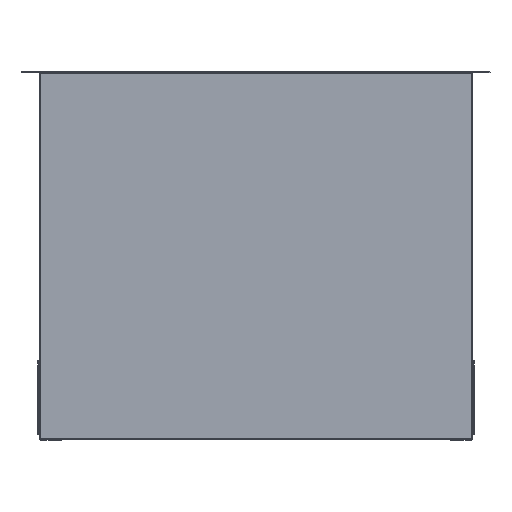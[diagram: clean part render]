
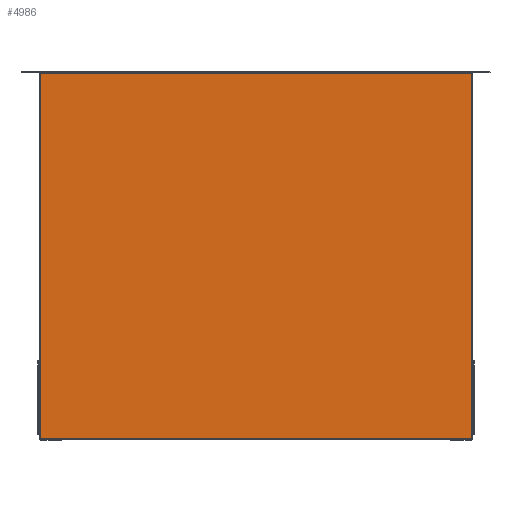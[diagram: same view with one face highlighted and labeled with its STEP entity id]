
A CAD part, front view. The second image highlights one B-rep face of the part: STEP entity #4986.
In plain terms, the highlighted planar face has unit normal (0, -1, -0.013) as drawn and (0, 0, -1) by its records, which use the part's own axes.
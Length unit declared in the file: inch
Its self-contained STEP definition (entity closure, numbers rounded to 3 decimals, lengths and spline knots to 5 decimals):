
#42 = ORIENTED_EDGE ( 'NONE', *, *, #14262, .T. ) ;
#568 = DIRECTION ( 'NONE',  ( 0., -1., 0. ) ) ;
#797 = DIRECTION ( 'NONE',  ( -1., 0., 0. ) ) ;
#1095 = VERTEX_POINT ( 'NONE', #20571 ) ;
#1994 = CARTESIAN_POINT ( 'NONE',  ( 41.66418, 35.37091, -0.038 ) ) ;
#2073 = ORIENTED_EDGE ( 'NONE', *, *, #10885, .T. ) ;
#2102 = LINE ( 'NONE', #3580, #13863 ) ;
#2116 = EDGE_LOOP ( 'NONE', ( #3471, #42, #25168, #22165, #28436, #24863, #19853, #12657, #26142, #2073, #17959, #5690, #9823, #27240, #17568, #15148 ) ) ;
#2342 = CARTESIAN_POINT ( 'NONE',  ( 41.66483, 0., -0.038 ) ) ;
#2512 = DIRECTION ( 'NONE',  ( -1., 0., 0. ) ) ;
#2691 = VERTEX_POINT ( 'NONE', #11696 ) ;
#3238 = CARTESIAN_POINT ( 'NONE',  ( 0., 35.37091, -0.038 ) ) ;
#3386 = EDGE_CURVE ( 'NONE', #28483, #27165, #27509, .T. ) ;
#3471 = ORIENTED_EDGE ( 'NONE', *, *, #20918, .F. ) ;
#3580 = CARTESIAN_POINT ( 'NONE',  ( 12.92088, 1.40921, -0.038 ) ) ;
#4073 = DIRECTION ( 'NONE',  ( 0., 0., -1. ) ) ;
#4098 = VECTOR ( 'NONE', #20821, 39.37008 ) ;
#4540 = CARTESIAN_POINT ( 'NONE',  ( 12.97088, 1.45921, -0.038 ) ) ;
#4634 = CARTESIAN_POINT ( 'NONE',  ( 0., 1.45856, -0.038 ) ) ;
#4986 = ADVANCED_FACE ( 'NONE', ( #18772 ), #8395, .T. ) ;
#5031 = CARTESIAN_POINT ( 'NONE',  ( 12.87088, 1.45921, -0.038 ) ) ;
#5054 = DIRECTION ( 'NONE',  ( 1., 0., 0. ) ) ;
#5690 = ORIENTED_EDGE ( 'NONE', *, *, #13666, .T. ) ;
#5764 = LINE ( 'NONE', #23245, #16761 ) ;
#6099 = VECTOR ( 'NONE', #24488, 39.37008 ) ;
#6322 = VERTEX_POINT ( 'NONE', #19503 ) ;
#6548 = LINE ( 'NONE', #15679, #16850 ) ;
#6859 = VECTOR ( 'NONE', #568, 39.37008 ) ;
#6863 = EDGE_CURVE ( 'NONE', #27633, #9284, #11944, .T. ) ;
#7395 = CARTESIAN_POINT ( 'NONE',  ( 41.66418, 1.42796, -0.038 ) ) ;
#7613 = LINE ( 'NONE', #7395, #25861 ) ;
#7667 = VECTOR ( 'NONE', #5054, 39.37008 ) ;
#7965 = LINE ( 'NONE', #28415, #13143 ) ;
#8000 = CARTESIAN_POINT ( 'NONE',  ( 12.87088, 35.47026, -0.038 ) ) ;
#8084 = VECTOR ( 'NONE', #10350, 39.37008 ) ;
#8144 = EDGE_CURVE ( 'NONE', #28483, #14903, #10809, .T. ) ;
#8395 = PLANE ( 'NONE',  #9129 ) ;
#8434 = VERTEX_POINT ( 'NONE', #12731 ) ;
#9104 = VERTEX_POINT ( 'NONE', #9320 ) ;
#9118 = CARTESIAN_POINT ( 'NONE',  ( 12.87088, 35.37026, -0.038 ) ) ;
#9129 = AXIS2_PLACEMENT_3D ( 'NONE', #26026, #4073, #19436 ) ;
#9284 = VERTEX_POINT ( 'NONE', #12020 ) ;
#9320 = CARTESIAN_POINT ( 'NONE',  ( 41.66483, 1.49084, -0.038 ) ) ;
#9532 = DIRECTION ( 'NONE',  ( 1., 0., 0. ) ) ;
#9823 = ORIENTED_EDGE ( 'NONE', *, *, #6863, .F. ) ;
#10261 = EDGE_CURVE ( 'NONE', #22614, #1095, #7965, .T. ) ;
#10350 = DIRECTION ( 'NONE',  ( 0., -1., 0. ) ) ;
#10608 = CARTESIAN_POINT ( 'NONE',  ( 12.87088, 35.42026, -0.038 ) ) ;
#10650 = LINE ( 'NONE', #24939, #23053 ) ;
#10797 = VERTEX_POINT ( 'NONE', #21899 ) ;
#10809 = LINE ( 'NONE', #16214, #16667 ) ;
#10885 = EDGE_CURVE ( 'NONE', #8434, #16534, #6548, .T. ) ;
#10907 = CARTESIAN_POINT ( 'NONE',  ( 41.66483, 35.33943, -0.038 ) ) ;
#11278 = CARTESIAN_POINT ( 'NONE',  ( 0., 35.33943, -0.038 ) ) ;
#11696 = CARTESIAN_POINT ( 'NONE',  ( 12.97088, 1.45856, -0.038 ) ) ;
#11944 = LINE ( 'NONE', #11278, #18448 ) ;
#12020 = CARTESIAN_POINT ( 'NONE',  ( 41.66418, 35.33943, -0.038 ) ) ;
#12125 = LINE ( 'NONE', #4634, #17234 ) ;
#12350 = VECTOR ( 'NONE', #12538, 39.37008 ) ;
#12538 = DIRECTION ( 'NONE',  ( 0., -1., 0. ) ) ;
#12657 = ORIENTED_EDGE ( 'NONE', *, *, #3386, .T. ) ;
#12731 = CARTESIAN_POINT ( 'NONE',  ( 12.97088, 35.37026, -0.038 ) ) ;
#13110 = EDGE_CURVE ( 'NONE', #15478, #16534, #15826, .T. ) ;
#13143 = VECTOR ( 'NONE', #26296, 39.37008 ) ;
#13666 = EDGE_CURVE ( 'NONE', #15478, #9284, #25427, .T. ) ;
#13863 = VECTOR ( 'NONE', #18950, 39.37008 ) ;
#13968 = LINE ( 'NONE', #27889, #8084 ) ;
#14262 = EDGE_CURVE ( 'NONE', #2691, #22614, #5764, .T. ) ;
#14903 = VERTEX_POINT ( 'NONE', #15429 ) ;
#15091 = CARTESIAN_POINT ( 'NONE',  ( 12.84276, 1.40921, -0.038 ) ) ;
#15148 = ORIENTED_EDGE ( 'NONE', *, *, #19291, .T. ) ;
#15336 = CARTESIAN_POINT ( 'NONE',  ( 12.97088, 35.37091, -0.038 ) ) ;
#15429 = CARTESIAN_POINT ( 'NONE',  ( 12.84276, 35.42026, -0.038 ) ) ;
#15478 = VERTEX_POINT ( 'NONE', #1994 ) ;
#15679 = CARTESIAN_POINT ( 'NONE',  ( 12.97088, 35.47026, -0.038 ) ) ;
#15790 = VECTOR ( 'NONE', #19027, 39.37008 ) ;
#15826 = LINE ( 'NONE', #3238, #4098 ) ;
#15880 = EDGE_CURVE ( 'NONE', #14903, #21249, #13968, .T. ) ;
#16214 = CARTESIAN_POINT ( 'NONE',  ( 12.79588, 35.42026, -0.038 ) ) ;
#16534 = VERTEX_POINT ( 'NONE', #15336 ) ;
#16667 = VECTOR ( 'NONE', #797, 39.37008 ) ;
#16761 = VECTOR ( 'NONE', #21035, 39.37008 ) ;
#16850 = VECTOR ( 'NONE', #17866, 39.37008 ) ;
#17234 = VECTOR ( 'NONE', #22218, 39.37008 ) ;
#17568 = ORIENTED_EDGE ( 'NONE', *, *, #20375, .F. ) ;
#17866 = DIRECTION ( 'NONE',  ( 0., 1., 0. ) ) ;
#17959 = ORIENTED_EDGE ( 'NONE', *, *, #13110, .F. ) ;
#18071 = VERTEX_POINT ( 'NONE', #26890 ) ;
#18209 = CARTESIAN_POINT ( 'NONE',  ( 0., 1.49084, -0.038 ) ) ;
#18448 = VECTOR ( 'NONE', #2512, 39.37008 ) ;
#18772 = FACE_OUTER_BOUND ( 'NONE', #2116, .T. ) ;
#18950 = DIRECTION ( 'NONE',  ( 1., 0., 0. ) ) ;
#19027 = DIRECTION ( 'NONE',  ( 0., -1., 0. ) ) ;
#19291 = EDGE_CURVE ( 'NONE', #10797, #6322, #7613, .T. ) ;
#19436 = DIRECTION ( 'NONE',  ( -1., 0., 0. ) ) ;
#19503 = CARTESIAN_POINT ( 'NONE',  ( 41.66418, 1.45856, -0.038 ) ) ;
#19853 = ORIENTED_EDGE ( 'NONE', *, *, #8144, .F. ) ;
#20375 = EDGE_CURVE ( 'NONE', #10797, #9104, #25232, .T. ) ;
#20534 = DIRECTION ( 'NONE',  ( 0., -1., 0. ) ) ;
#20571 = CARTESIAN_POINT ( 'NONE',  ( 12.87088, 1.45921, -0.038 ) ) ;
#20613 = EDGE_CURVE ( 'NONE', #21249, #18071, #2102, .T. ) ;
#20821 = DIRECTION ( 'NONE',  ( -1., 0., 0. ) ) ;
#20918 = EDGE_CURVE ( 'NONE', #2691, #6322, #12125, .T. ) ;
#21035 = DIRECTION ( 'NONE',  ( 0., 1., 0. ) ) ;
#21249 = VERTEX_POINT ( 'NONE', #15091 ) ;
#21899 = CARTESIAN_POINT ( 'NONE',  ( 41.66418, 1.49084, -0.038 ) ) ;
#22165 = ORIENTED_EDGE ( 'NONE', *, *, #26722, .T. ) ;
#22218 = DIRECTION ( 'NONE',  ( 1., 0., 0. ) ) ;
#22614 = VERTEX_POINT ( 'NONE', #4540 ) ;
#22762 = EDGE_CURVE ( 'NONE', #27165, #8434, #10650, .T. ) ;
#22957 = LINE ( 'NONE', #2342, #6099 ) ;
#23053 = VECTOR ( 'NONE', #9532, 39.37008 ) ;
#23245 = CARTESIAN_POINT ( 'NONE',  ( 12.97088, 1.45921, -0.038 ) ) ;
#24399 = LINE ( 'NONE', #5031, #6859 ) ;
#24488 = DIRECTION ( 'NONE',  ( 0., -1., 0. ) ) ;
#24863 = ORIENTED_EDGE ( 'NONE', *, *, #15880, .F. ) ;
#24939 = CARTESIAN_POINT ( 'NONE',  ( 12.97088, 35.37026, -0.038 ) ) ;
#25168 = ORIENTED_EDGE ( 'NONE', *, *, #10261, .T. ) ;
#25232 = LINE ( 'NONE', #18209, #7667 ) ;
#25427 = LINE ( 'NONE', #27938, #12350 ) ;
#25861 = VECTOR ( 'NONE', #20534, 39.37008 ) ;
#26026 = CARTESIAN_POINT ( 'NONE',  ( 0., 0., -0.038 ) ) ;
#26142 = ORIENTED_EDGE ( 'NONE', *, *, #22762, .T. ) ;
#26296 = DIRECTION ( 'NONE',  ( -1., 0., 0. ) ) ;
#26722 = EDGE_CURVE ( 'NONE', #1095, #18071, #24399, .T. ) ;
#26890 = CARTESIAN_POINT ( 'NONE',  ( 12.87088, 1.40921, -0.038 ) ) ;
#27165 = VERTEX_POINT ( 'NONE', #9118 ) ;
#27240 = ORIENTED_EDGE ( 'NONE', *, *, #27720, .T. ) ;
#27509 = LINE ( 'NONE', #8000, #15790 ) ;
#27633 = VERTEX_POINT ( 'NONE', #10907 ) ;
#27720 = EDGE_CURVE ( 'NONE', #27633, #9104, #22957, .T. ) ;
#27889 = CARTESIAN_POINT ( 'NONE',  ( 12.84276, 0., -0.038 ) ) ;
#27938 = CARTESIAN_POINT ( 'NONE',  ( 41.66418, 35.50151, -0.038 ) ) ;
#28415 = CARTESIAN_POINT ( 'NONE',  ( 12.97088, 1.45921, -0.038 ) ) ;
#28436 = ORIENTED_EDGE ( 'NONE', *, *, #20613, .F. ) ;
#28483 = VERTEX_POINT ( 'NONE', #10608 ) ;
